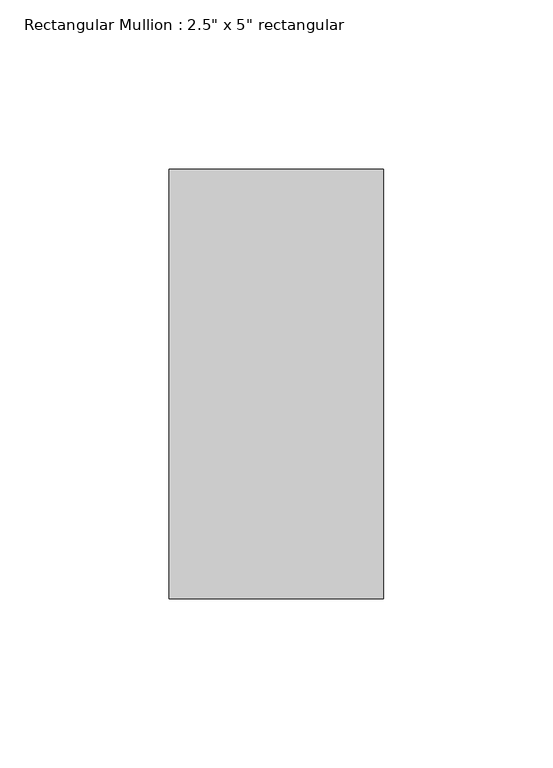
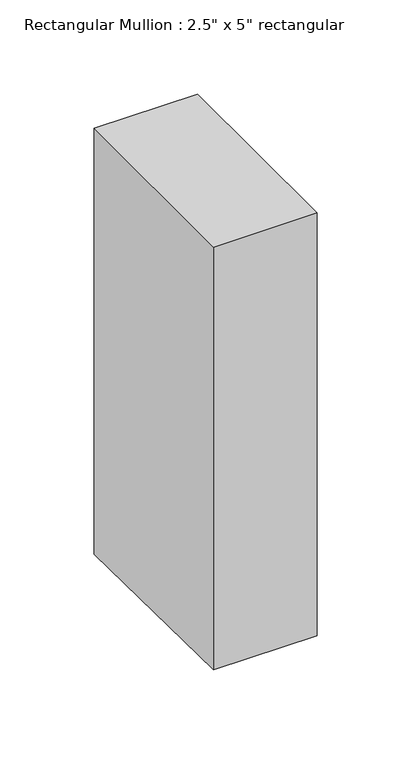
"""IFC4 building model written with IfcOpenShell, lengths in millimetres: member geometry."""

from ifc_helpers import new_model, si_unit, origin, place, context, project, spatial, faceted_brep, source, transform, mapped, element, save


def member_9bf3bd1a(model_context):
    return source(origin(), model_context, "Body", "Brep", [
        faceted_brep([(31.75, 63.5, 0.0), (-31.75, 63.5, 0.0), (-31.75, -63.5, 0.0), (31.75, -63.5, 0.0), (31.75, 63.5, -276.7542178), (-31.75, 63.5, -276.3410914), (-31.75, -63.5, -273.9907277), (31.75, -63.5, -274.403854)], [[[0, 1, 2, 3]], [[1, 0, 4, 5]], [[2, 1, 5, 6]], [[3, 2, 6, 7]], [[0, 3, 7, 4]], [[4, 7, 6, 5]]]),
    ])


if __name__ == "__main__":
    model = new_model("IFC4")
    model_context = context("Model", 3, world=origin())
    ifc_project = project(units=[si_unit("LENGTHUNIT", "METRE", prefix="MILLI")], contexts=[model_context])
    site = spatial("IfcSite", under=ifc_project)
    building = spatial("IfcBuilding", under=site)
    placement = place(None, origin())
    member_shape = member_9bf3bd1a(model_context)
    element("IfcMember", 1, ObjectType="Rectangular Mullion : 2.5\" x 5\" rectangular", at=placement, inside=building, context=model_context, shape_type="MappedRepresentation", body=[
        mapped(member_shape, transform((0.0, 0.0, 0.0), x_axis=(1.0, 0.0, 0.0), y_axis=(0.0, 1.0, 0.0), z_axis=(0.0, 0.0, 1.0))),
    ])
    save(model, "model.ifc")
